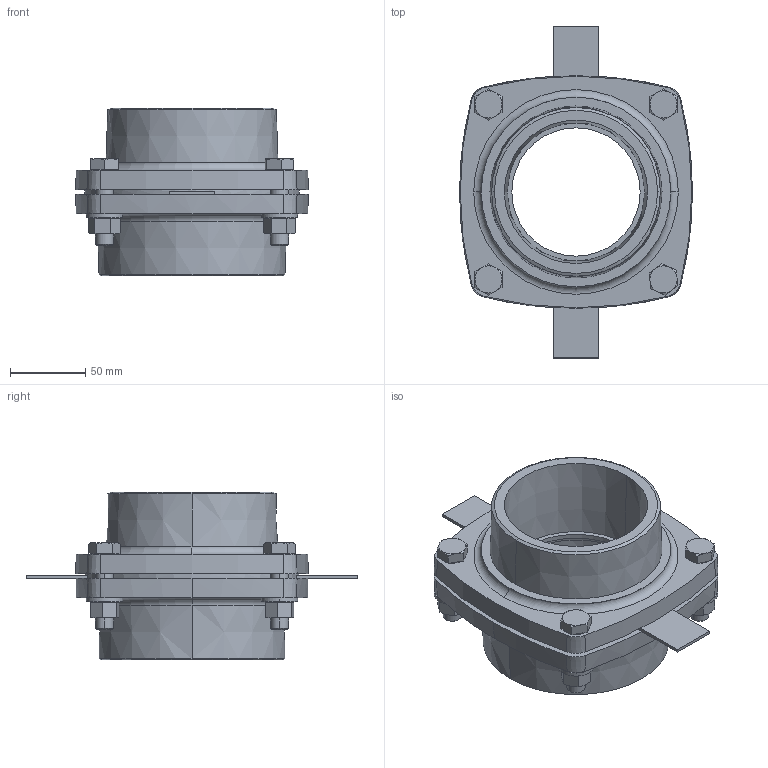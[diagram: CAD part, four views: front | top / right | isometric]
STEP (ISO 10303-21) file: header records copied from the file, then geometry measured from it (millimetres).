
FILE_DESCRIPTION (( 'STEP AP214' ), '1' );
FILE_NAME ('KP_F16-110MF.STEP', '2014-01-20T15:47:40', ( 'robinj' ), ( 'Microsoft' ), 'SwSTEP 2.0', 'SolidWorks 2014', '' );
FILE_SCHEMA (( 'AUTOMOTIVE_DESIGN' ));
Length unit declared in the file: millimetre
Products named in the file (1): KP_F16-110MF
Bounding box: 154.3 x 220 x 111 mm (x, y, z)
Volume: 695663 mm3; surface area: 139348.5 mm2
Topology: 1 solids, 1 shells, 354 faces, 780 edges, 458 vertices
Faces by surface type: plane 148, cone 126, cylinder 68, torus 12
Entity records: 11322 total; most frequent: CARTESIAN_POINT 2153, DIRECTION 1764, ORIENTED_EDGE 1560, EDGE_CURVE 780, AXIS2_PLACEMENT_3D 725, VERTEX_POINT 458, EDGE_LOOP 394, CIRCLE 370
